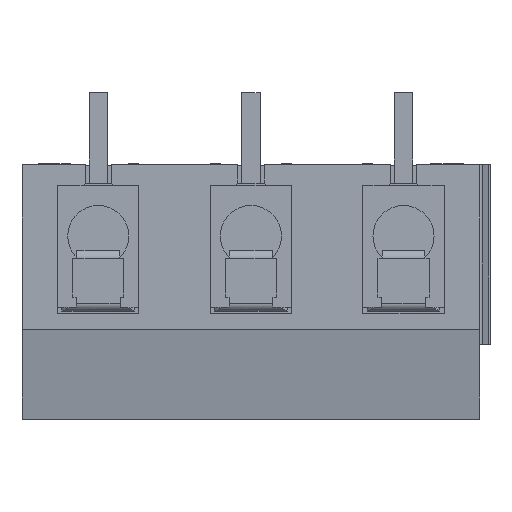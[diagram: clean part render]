
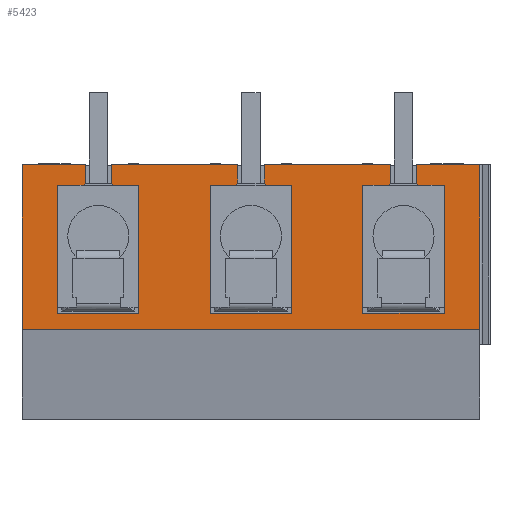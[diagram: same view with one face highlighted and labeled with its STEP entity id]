
A CAD part, top view. The second image highlights one B-rep face of the part: STEP entity #5423.
In plain terms, the highlighted planar face has unit normal (0, 0, 1).
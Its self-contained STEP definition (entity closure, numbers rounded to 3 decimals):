
#191=DIRECTION('',(0.,1.,0.));
#192=VECTOR('',#191,0.9);
#193=CARTESIAN_POINT('',(10.6,11.6,0.));
#194=LINE('',#193,#192);
#370=DIRECTION('',(0.,-1.,0.));
#371=VECTOR('',#370,6.3);
#372=CARTESIAN_POINT('',(13.25,11.5,0.));
#373=LINE('',#372,#371);
#378=DIRECTION('',(1.,0.,0.));
#379=VECTOR('',#378,1.25);
#380=CARTESIAN_POINT('',(12.,11.5,0.));
#381=LINE('',#380,#379);
#382=DIRECTION('',(-0.707,0.707,0.));
#383=VECTOR('',#382,0.141);
#384=CARTESIAN_POINT('',(12.,11.5,0.));
#385=LINE('',#384,#383);
#386=DIRECTION('',(0.,1.,0.));
#387=VECTOR('',#386,0.9);
#388=CARTESIAN_POINT('',(11.9,11.6,0.));
#389=LINE('',#388,#387);
#390=DIRECTION('',(-0.707,-0.707,0.));
#391=VECTOR('',#390,0.141);
#392=CARTESIAN_POINT('',(18.1,11.6,0.));
#393=LINE('',#392,#391);
#394=DIRECTION('',(-0.707,0.707,0.));
#395=VECTOR('',#394,0.141);
#396=CARTESIAN_POINT('',(19.5,11.5,0.));
#397=LINE('',#396,#395);
#398=DIRECTION('',(0.,1.,0.));
#399=VECTOR('',#398,0.9);
#400=CARTESIAN_POINT('',(19.4,11.6,0.));
#401=LINE('',#400,#399);
#402=DIRECTION('',(0.,-1.,0.));
#403=VECTOR('',#402,8.1);
#404=CARTESIAN_POINT('',(22.5,12.5,0.));
#405=LINE('',#404,#403);
#406=DIRECTION('',(-1.,0.,0.));
#407=VECTOR('',#406,22.5);
#408=CARTESIAN_POINT('',(22.5,4.4,0.));
#409=LINE('',#408,#407);
#410=DIRECTION('',(-0.707,-0.707,0.));
#411=VECTOR('',#410,0.141);
#412=CARTESIAN_POINT('',(3.1,11.6,0.));
#413=LINE('',#412,#411);
#414=DIRECTION('',(-0.707,0.707,0.));
#415=VECTOR('',#414,0.141);
#416=CARTESIAN_POINT('',(4.5,11.5,0.));
#417=LINE('',#416,#415);
#418=DIRECTION('',(0.,1.,0.));
#419=VECTOR('',#418,0.9);
#420=CARTESIAN_POINT('',(4.4,11.6,0.));
#421=LINE('',#420,#419);
#422=DIRECTION('',(-0.707,-0.707,0.));
#423=VECTOR('',#422,0.141);
#424=CARTESIAN_POINT('',(10.6,11.6,0.));
#425=LINE('',#424,#423);
#581=DIRECTION('',(-1.,0.,0.));
#582=VECTOR('',#581,3.1);
#583=CARTESIAN_POINT('',(22.5,12.5,0.));
#584=LINE('',#583,#582);
#589=DIRECTION('',(-1.,0.,0.));
#590=VECTOR('',#589,6.2);
#591=CARTESIAN_POINT('',(18.1,12.5,0.));
#592=LINE('',#591,#590);
#597=DIRECTION('',(-1.,0.,0.));
#598=VECTOR('',#597,6.2);
#599=CARTESIAN_POINT('',(10.6,12.5,0.));
#600=LINE('',#599,#598);
#605=DIRECTION('',(-1.,0.,0.));
#606=VECTOR('',#605,3.1);
#607=CARTESIAN_POINT('',(3.1,12.5,0.));
#608=LINE('',#607,#606);
#1052=DIRECTION('',(0.,-1.,0.));
#1053=VECTOR('',#1052,8.1);
#1054=CARTESIAN_POINT('',(0.,12.5,0.));
#1055=LINE('',#1054,#1053);
#2117=DIRECTION('',(0.,1.,0.));
#2118=VECTOR('',#2117,0.9);
#2119=CARTESIAN_POINT('',(18.1,11.6,0.));
#2120=LINE('',#2119,#2118);
#2153=DIRECTION('',(1.,0.,0.));
#2154=VECTOR('',#2153,1.25);
#2155=CARTESIAN_POINT('',(19.5,11.5,0.));
#2156=LINE('',#2155,#2154);
#2312=DIRECTION('',(0.,-1.,0.));
#2313=VECTOR('',#2312,6.3);
#2314=CARTESIAN_POINT('',(20.75,11.5,0.));
#2315=LINE('',#2314,#2313);
#2324=DIRECTION('',(-1.,0.,0.));
#2325=VECTOR('',#2324,4.);
#2326=CARTESIAN_POINT('',(20.75,5.2,0.));
#2327=LINE('',#2326,#2325);
#2336=DIRECTION('',(0.,1.,0.));
#2337=VECTOR('',#2336,6.3);
#2338=CARTESIAN_POINT('',(16.75,5.2,0.));
#2339=LINE('',#2338,#2337);
#2348=DIRECTION('',(1.,0.,0.));
#2349=VECTOR('',#2348,1.25);
#2350=CARTESIAN_POINT('',(16.75,11.5,0.));
#2351=LINE('',#2350,#2349);
#2573=DIRECTION('',(0.,1.,0.));
#2574=VECTOR('',#2573,0.9);
#2575=CARTESIAN_POINT('',(3.1,11.6,0.));
#2576=LINE('',#2575,#2574);
#2609=DIRECTION('',(1.,0.,0.));
#2610=VECTOR('',#2609,1.25);
#2611=CARTESIAN_POINT('',(4.5,11.5,0.));
#2612=LINE('',#2611,#2610);
#2625=DIRECTION('',(0.,-1.,0.));
#2626=VECTOR('',#2625,6.3);
#2627=CARTESIAN_POINT('',(5.75,11.5,0.));
#2628=LINE('',#2627,#2626);
#2763=DIRECTION('',(0.,1.,0.));
#2764=VECTOR('',#2763,6.3);
#2765=CARTESIAN_POINT('',(1.75,5.2,0.));
#2766=LINE('',#2765,#2764);
#2779=DIRECTION('',(-1.,0.,0.));
#2780=VECTOR('',#2779,4.);
#2781=CARTESIAN_POINT('',(5.75,5.2,0.));
#2782=LINE('',#2781,#2780);
#2787=DIRECTION('',(1.,0.,0.));
#2788=VECTOR('',#2787,1.25);
#2789=CARTESIAN_POINT('',(1.75,11.5,0.));
#2790=LINE('',#2789,#2788);
#2967=DIRECTION('',(1.,0.,0.));
#2968=VECTOR('',#2967,1.25);
#2969=CARTESIAN_POINT('',(9.25,11.5,0.));
#2970=LINE('',#2969,#2968);
#2983=DIRECTION('',(0.,1.,0.));
#2984=VECTOR('',#2983,6.3);
#2985=CARTESIAN_POINT('',(9.25,5.2,0.));
#2986=LINE('',#2985,#2984);
#2999=DIRECTION('',(-1.,0.,0.));
#3000=VECTOR('',#2999,4.);
#3001=CARTESIAN_POINT('',(13.25,5.2,0.));
#3002=LINE('',#3001,#3000);
#3708=CARTESIAN_POINT('',(22.5,12.5,0.));
#3709=VERTEX_POINT('',#3708);
#3710=CARTESIAN_POINT('',(19.4,12.5,0.));
#3711=VERTEX_POINT('',#3710);
#3716=CARTESIAN_POINT('',(18.1,12.5,0.));
#3717=VERTEX_POINT('',#3716);
#3718=CARTESIAN_POINT('',(11.9,12.5,0.));
#3719=VERTEX_POINT('',#3718);
#3724=CARTESIAN_POINT('',(10.6,12.5,0.));
#3725=VERTEX_POINT('',#3724);
#3726=CARTESIAN_POINT('',(4.4,12.5,0.));
#3727=VERTEX_POINT('',#3726);
#3732=CARTESIAN_POINT('',(3.1,12.5,0.));
#3733=VERTEX_POINT('',#3732);
#3734=CARTESIAN_POINT('',(0.,12.5,0.));
#3735=VERTEX_POINT('',#3734);
#3832=CARTESIAN_POINT('',(0.,4.4,0.));
#3833=VERTEX_POINT('',#3832);
#3836=CARTESIAN_POINT('',(22.5,4.4,0.));
#3837=VERTEX_POINT('',#3836);
#3838=CARTESIAN_POINT('',(12.,11.5,0.));
#3839=CARTESIAN_POINT('',(11.9,11.6,0.));
#3840=VERTEX_POINT('',#3838);
#3841=VERTEX_POINT('',#3839);
#3842=CARTESIAN_POINT('',(18.1,11.6,0.));
#3843=VERTEX_POINT('',#3842);
#3844=CARTESIAN_POINT('',(18.,11.5,0.));
#3845=VERTEX_POINT('',#3844);
#3846=CARTESIAN_POINT('',(16.75,11.5,0.));
#3847=VERTEX_POINT('',#3846);
#3848=CARTESIAN_POINT('',(16.75,5.2,0.));
#3849=VERTEX_POINT('',#3848);
#3850=CARTESIAN_POINT('',(20.75,5.2,0.));
#3851=VERTEX_POINT('',#3850);
#3852=CARTESIAN_POINT('',(20.75,11.5,0.));
#3853=VERTEX_POINT('',#3852);
#3854=CARTESIAN_POINT('',(19.5,11.5,0.));
#3855=VERTEX_POINT('',#3854);
#3856=CARTESIAN_POINT('',(19.4,11.6,0.));
#3857=VERTEX_POINT('',#3856);
#3858=CARTESIAN_POINT('',(3.1,11.6,0.));
#3859=VERTEX_POINT('',#3858);
#3860=CARTESIAN_POINT('',(3.,11.5,0.));
#3861=VERTEX_POINT('',#3860);
#3862=CARTESIAN_POINT('',(1.75,11.5,0.));
#3863=VERTEX_POINT('',#3862);
#3864=CARTESIAN_POINT('',(1.75,5.2,0.));
#3865=VERTEX_POINT('',#3864);
#3866=CARTESIAN_POINT('',(5.75,5.2,0.));
#3867=VERTEX_POINT('',#3866);
#3868=CARTESIAN_POINT('',(5.75,11.5,0.));
#3869=VERTEX_POINT('',#3868);
#3870=CARTESIAN_POINT('',(4.5,11.5,0.));
#3871=VERTEX_POINT('',#3870);
#3872=CARTESIAN_POINT('',(4.4,11.6,0.));
#3873=VERTEX_POINT('',#3872);
#3874=CARTESIAN_POINT('',(10.6,11.6,0.));
#3875=VERTEX_POINT('',#3874);
#3876=CARTESIAN_POINT('',(10.5,11.5,0.));
#3877=VERTEX_POINT('',#3876);
#3878=CARTESIAN_POINT('',(9.25,11.5,0.));
#3879=VERTEX_POINT('',#3878);
#3880=CARTESIAN_POINT('',(9.25,5.2,0.));
#3881=VERTEX_POINT('',#3880);
#3882=CARTESIAN_POINT('',(13.25,5.2,0.));
#3883=VERTEX_POINT('',#3882);
#3884=CARTESIAN_POINT('',(13.25,11.5,0.));
#3885=VERTEX_POINT('',#3884);
#5354=CARTESIAN_POINT('',(0.,0.,0.));
#5355=DIRECTION('',(0.,0.,1.));
#5356=DIRECTION('',(1.,0.,0.));
#5357=AXIS2_PLACEMENT_3D('',#5354,#5355,#5356);
#5358=PLANE('',#5357);
#5359=ORIENTED_EDGE('',*,*,#4958,.T.);
#5360=ORIENTED_EDGE('',*,*,#4978,.T.);
#5362=ORIENTED_EDGE('',*,*,#5361,.F.);
#5364=ORIENTED_EDGE('',*,*,#5363,.F.);
#5366=ORIENTED_EDGE('',*,*,#5365,.T.);
#5368=ORIENTED_EDGE('',*,*,#5367,.F.);
#5370=ORIENTED_EDGE('',*,*,#5369,.F.);
#5372=ORIENTED_EDGE('',*,*,#5371,.F.);
#5374=ORIENTED_EDGE('',*,*,#5373,.F.);
#5376=ORIENTED_EDGE('',*,*,#5375,.F.);
#5378=ORIENTED_EDGE('',*,*,#5377,.T.);
#5380=ORIENTED_EDGE('',*,*,#5379,.T.);
#5382=ORIENTED_EDGE('',*,*,#5381,.F.);
#5384=ORIENTED_EDGE('',*,*,#5383,.T.);
#5386=ORIENTED_EDGE('',*,*,#5385,.T.);
#5388=ORIENTED_EDGE('',*,*,#5387,.F.);
#5390=ORIENTED_EDGE('',*,*,#5389,.F.);
#5392=ORIENTED_EDGE('',*,*,#5391,.F.);
#5394=ORIENTED_EDGE('',*,*,#5393,.T.);
#5396=ORIENTED_EDGE('',*,*,#5395,.F.);
#5398=ORIENTED_EDGE('',*,*,#5397,.F.);
#5400=ORIENTED_EDGE('',*,*,#5399,.F.);
#5402=ORIENTED_EDGE('',*,*,#5401,.F.);
#5404=ORIENTED_EDGE('',*,*,#5403,.F.);
#5406=ORIENTED_EDGE('',*,*,#5405,.T.);
#5408=ORIENTED_EDGE('',*,*,#5407,.T.);
#5410=ORIENTED_EDGE('',*,*,#5409,.F.);
#5411=ORIENTED_EDGE('',*,*,#5126,.F.);
#5412=ORIENTED_EDGE('',*,*,#5145,.T.);
#5414=ORIENTED_EDGE('',*,*,#5413,.F.);
#5416=ORIENTED_EDGE('',*,*,#5415,.F.);
#5418=ORIENTED_EDGE('',*,*,#5417,.F.);
#5419=ORIENTED_EDGE('',*,*,#5334,.F.);
#5420=ORIENTED_EDGE('',*,*,#5348,.F.);
#5421=EDGE_LOOP('',(#5359,#5360,#5362,#5364,#5366,#5368,#5370,#5372,#5374,#5376,
#5378,#5380,#5382,#5384,#5386,#5388,#5390,#5392,#5394,#5396,#5398,#5400,#5402,
#5404,#5406,#5408,#5410,#5411,#5412,#5414,#5416,#5418,#5419,#5420));
#5422=FACE_OUTER_BOUND('',#5421,.F.);
#5423=ADVANCED_FACE('',(#5422),#5358,.T.);
#4958=EDGE_CURVE('',#3840,#3841,#385,.T.);
#4978=EDGE_CURVE('',#3841,#3719,#389,.T.);
#5126=EDGE_CURVE('',#3875,#3725,#194,.T.);
#5145=EDGE_CURVE('',#3875,#3877,#425,.T.);
#5334=EDGE_CURVE('',#3885,#3883,#373,.T.);
#5348=EDGE_CURVE('',#3840,#3885,#381,.T.);
#5361=EDGE_CURVE('',#3717,#3719,#592,.T.);
#5363=EDGE_CURVE('',#3843,#3717,#2120,.T.);
#5365=EDGE_CURVE('',#3843,#3845,#393,.T.);
#5367=EDGE_CURVE('',#3847,#3845,#2351,.T.);
#5369=EDGE_CURVE('',#3849,#3847,#2339,.T.);
#5371=EDGE_CURVE('',#3851,#3849,#2327,.T.);
#5373=EDGE_CURVE('',#3853,#3851,#2315,.T.);
#5375=EDGE_CURVE('',#3855,#3853,#2156,.T.);
#5377=EDGE_CURVE('',#3855,#3857,#397,.T.);
#5379=EDGE_CURVE('',#3857,#3711,#401,.T.);
#5381=EDGE_CURVE('',#3709,#3711,#584,.T.);
#5383=EDGE_CURVE('',#3709,#3837,#405,.T.);
#5385=EDGE_CURVE('',#3837,#3833,#409,.T.);
#5387=EDGE_CURVE('',#3735,#3833,#1055,.T.);
#5389=EDGE_CURVE('',#3733,#3735,#608,.T.);
#5391=EDGE_CURVE('',#3859,#3733,#2576,.T.);
#5393=EDGE_CURVE('',#3859,#3861,#413,.T.);
#5395=EDGE_CURVE('',#3863,#3861,#2790,.T.);
#5397=EDGE_CURVE('',#3865,#3863,#2766,.T.);
#5399=EDGE_CURVE('',#3867,#3865,#2782,.T.);
#5401=EDGE_CURVE('',#3869,#3867,#2628,.T.);
#5403=EDGE_CURVE('',#3871,#3869,#2612,.T.);
#5405=EDGE_CURVE('',#3871,#3873,#417,.T.);
#5407=EDGE_CURVE('',#3873,#3727,#421,.T.);
#5409=EDGE_CURVE('',#3725,#3727,#600,.T.);
#5413=EDGE_CURVE('',#3879,#3877,#2970,.T.);
#5415=EDGE_CURVE('',#3881,#3879,#2986,.T.);
#5417=EDGE_CURVE('',#3883,#3881,#3002,.T.);
